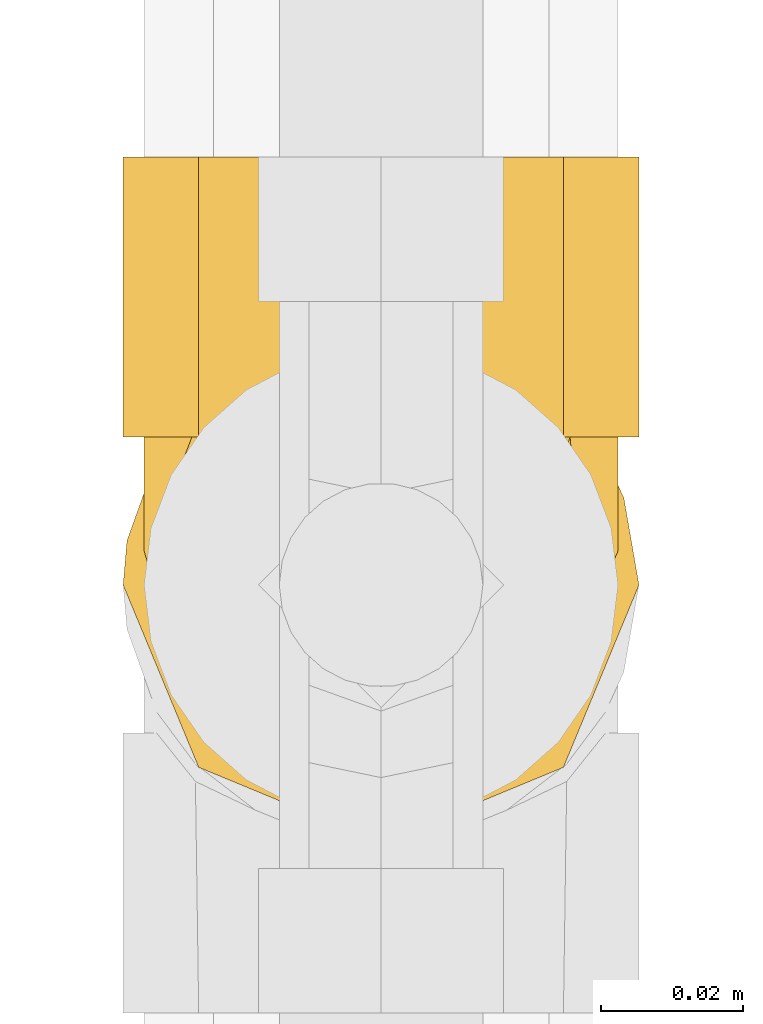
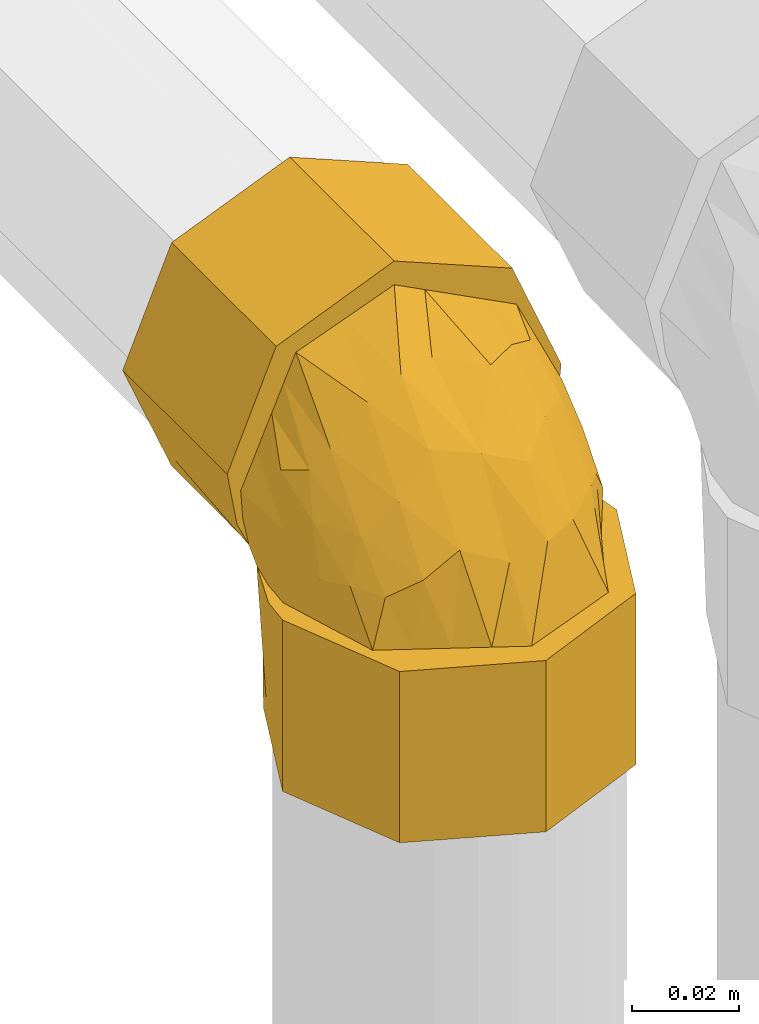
# One storey, part 242 of 652: 1 covering.
"""IFC2X3 building model written with IfcOpenShell, lengths in millimetres."""

from ifc_helpers import new_model, entity, si_unit, converted_unit, direction, frame, origin, place, context, subcontext, project, spatial, faceted_brep, material, type_object, element, save


model = new_model("IFC2X3")

# Units and contexts
model_context = context("Model", 3, precision=0.01, world=frame((0.0, 0.0, 308426.39999999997)), true_north=direction((6.123233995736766e-17, 1.0)))
plan_context = context("Plan", 3, precision=0.01, world=frame((0.0, 0.0, 308426.39999999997)), true_north=direction((6.123233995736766e-17, 1.0)))
body_context = subcontext(model_context, "Body", "Model", "MODEL_VIEW")
ifc_project = project(units=[si_unit("LENGTHUNIT", "METRE", prefix="MILLI"), si_unit("AREAUNIT", "SQUARE_METRE"), si_unit("VOLUMEUNIT", "CUBIC_METRE"), converted_unit("PLANEANGLEUNIT", "DEGREE", entity("IfcPlaneAngleMeasure", 0.017453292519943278), si_unit("PLANEANGLEUNIT", "RADIAN"), dimensions=[0, 0, 0, 0, 0, 0, 0])], contexts=[model_context, plan_context])

# Site, building, storey
site_placement = place(None, origin())
site = spatial("IfcSite", under=ifc_project, at=site_placement, Name="Default", CompositionType="ELEMENT")
building_placement = place(site_placement, origin())
building = spatial("IfcBuilding", under=site, at=building_placement, CompositionType="ELEMENT")
storey_placement = place(building_placement, frame((0.0, 0.0, 1730.6999999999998)))
storey = spatial("IfcBuildingStorey", under=building, at=storey_placement, Name="EG_Produktion_FFB", CompositionType="ELEMENT", Elevation=1730.6999999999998)

# Covering
ifc_material = material(Name="Dämmung - Armaflex-Schlauch")
covering_type = type_object("IfcCoveringType", Name="Rohrdämmung außen:Armaflex-Schlauch", PredefinedType="INSULATION")
covering_placement = place(storey_placement, frame((77542.20272776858, 51600.23108173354, 3539.9492499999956)))
element("IfcCovering", 1, at=covering_placement, inside=storey, type_object=covering_type, material=ifc_material, Name="Rohrdämmung außen:Armaflex-Schlauch", ObjectType="Rohrdämmung außen:Armaflex-Schlauch", PredefinedType="INSULATION", context=body_context, shape_type="Brep", body=[
    faceted_brep([(71.87921900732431, 50.00406166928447, 39.25925000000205), (69.29766488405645, 55.6385184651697, 39.25925000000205), (70.60633213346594, 49.190615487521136, 39.25925000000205), (71.08477223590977, 42.62645720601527, 39.25925000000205), (67.71555609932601, 34.8657782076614, 39.25925000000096), (64.34633996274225, 27.105099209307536, 39.25925000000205), (61.730299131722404, 21.079290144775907, 39.25925000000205), (59.11425830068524, 15.053481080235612, 39.25925000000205), (48.455765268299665, 11.03819792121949, 39.25925000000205), (37.79727223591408, 7.022914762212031, 39.25925000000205), (31.16766916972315, 10.459541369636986, 39.25925000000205), (24.53806610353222, 13.89616797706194, 39.25925000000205), (17.908463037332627, 17.332794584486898, 39.25925000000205), (11.278859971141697, 20.769421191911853, 39.25925000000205), (9.166908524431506, 27.588803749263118, 39.25925000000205), (7.054957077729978, 34.408186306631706, 39.25925000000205), (4.509772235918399, 42.62645720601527, 39.25925000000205), (4.988212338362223, 49.190615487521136, 39.25925000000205), (6.296879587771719, 55.6385184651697, 39.25925000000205), (2.131188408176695, 44.003339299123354, 39.25925000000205), (1.5952722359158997, 37.79727223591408, 39.25925000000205), (4.747598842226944, 30.18688258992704, 39.25925000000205), (6.896932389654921, 24.997932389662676, 39.25925000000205), (9.547762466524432, 18.598262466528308, 39.25925000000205), (12.198592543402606, 12.198592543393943, 39.25925000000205), (18.598262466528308, 9.547762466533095, 39.25925000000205), (24.997932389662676, 6.896932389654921, 39.25925000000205), (31.39760231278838, 4.246102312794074, 39.25925000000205), (37.79727223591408, 1.5952722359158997, 39.25925000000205), (45.407662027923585, 4.74759890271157, 39.25925000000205), (50.596612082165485, 6.896932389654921, 39.25925000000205), (56.996282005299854, 9.547762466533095, 39.25925000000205), (63.39595192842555, 12.198592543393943, 39.25925000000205), (66.04678200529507, 18.598262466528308, 39.25925000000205), (68.69761208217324, 24.997932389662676, 39.25925000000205), (71.34844215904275, 31.39760231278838, 39.25925000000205), (73.99927223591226, 37.79727223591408, 39.25925000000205), (12.198592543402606, 63.39595192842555, 0.0), (18.598262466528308, 66.04678200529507, 0.0), (24.997932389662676, 68.69761208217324, 0.0), (31.39760231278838, 71.34844215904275, 0.0), (37.79727223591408, 73.99927223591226, 0.0), (44.196942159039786, 71.3484421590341, 0.0), (50.596612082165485, 68.69761208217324, 0.0), (56.996282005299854, 66.04678200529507, 0.0), (63.39595192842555, 63.39595192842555, 0.0), (66.04678200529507, 56.996282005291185, 0.0), (68.69761208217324, 50.596612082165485, 0.0), (71.34844215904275, 44.196942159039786, 0.0), (73.99927223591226, 37.79727223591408, 0.0), (71.3484421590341, 31.39760231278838, 0.0), (68.69761208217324, 24.997932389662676, 0.0), (66.04678200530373, 18.598262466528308, 0.0), (63.39595192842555, 12.198592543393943, 0.0), (53.01805258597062, 7.899925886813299, 0.0), (45.40766241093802, 4.7475990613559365, 0.0), (37.79727223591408, 1.5952722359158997, 0.0), (31.39760231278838, 4.2461023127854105, 0.0), (24.99793238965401, 6.896932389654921, 0.0), (18.598262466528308, 9.547762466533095, 0.0), (12.198592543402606, 12.198592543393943, 0.0), (7.899925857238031, 22.576491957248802, 0.0), (4.747599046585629, 30.186882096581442, 0.0), (1.5952722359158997, 37.79727223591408, 0.0), (4.246102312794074, 44.196942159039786, 0.0), (6.896932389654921, 50.596612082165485, 0.0), (9.547762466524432, 56.996282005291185, 0.0), (11.740817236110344, 62.92983988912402, 32.466689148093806), (28.451279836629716, 72.7720807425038, 25.07594149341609), (20.176179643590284, 69.42134376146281, 28.42667847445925), (37.79727223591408, 73.99927223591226, 23.848750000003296), (63.85372723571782, 62.92983988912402, 32.466689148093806), (47.14326463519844, 72.7720807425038, 25.07594149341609), (55.41836482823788, 69.42134376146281, 28.42667847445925), (73.99927223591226, 58.588772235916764, 60.05075000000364), (70.84694554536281, 58.588772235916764, 67.66113984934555), (68.69761208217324, 58.588772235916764, 72.85008984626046), (66.04678200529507, 58.588772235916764, 79.24975976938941), (63.39595192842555, 58.588772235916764, 85.64942969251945), (56.996282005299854, 58.588772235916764, 88.30025976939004), (50.596612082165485, 58.588772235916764, 90.95108984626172), (44.196942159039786, 58.588772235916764, 93.6019199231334), (37.79727223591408, 58.588772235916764, 96.25275000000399), (30.1868828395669, 58.588772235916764, 93.10042349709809), (24.997932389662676, 58.588772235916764, 90.95108984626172), (18.598262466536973, 58.588772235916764, 88.30025976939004), (12.198592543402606, 58.588772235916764, 85.64942969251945), (9.547762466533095, 58.588772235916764, 79.2497597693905), (6.896932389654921, 58.588772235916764, 72.85008984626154), (4.246102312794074, 58.588772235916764, 66.4504199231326), (1.5952722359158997, 58.588772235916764, 60.05075000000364), (3.7153254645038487, 58.588772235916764, 47.84396056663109), (6.296879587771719, 58.588772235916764, 42.209503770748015), (4.988212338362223, 58.588772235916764, 48.65740674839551), (4.509772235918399, 58.588772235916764, 55.22156502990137), (7.88008535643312, 58.588772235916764, 62.98153911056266), (11.250398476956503, 58.588772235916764, 70.74151319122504), (13.869352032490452, 58.588772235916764, 76.77152019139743), (16.488305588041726, 58.588772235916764, 82.80152719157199), (27.14278891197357, 58.588772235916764, 86.813317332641), (37.79727223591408, 58.588772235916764, 90.82510747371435), (44.42865853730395, 58.588772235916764, 87.38600173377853), (51.060044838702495, 58.588772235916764, 83.94689599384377), (57.69143114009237, 58.588772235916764, 80.5077902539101), (64.32281744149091, 58.588772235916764, 77.06868451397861), (66.43186813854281, 58.588772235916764, 70.25457765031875), (68.54091883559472, 58.588772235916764, 63.440470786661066), (71.08477223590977, 58.588772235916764, 55.22156502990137), (70.60633213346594, 58.588772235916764, 48.65740674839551), (69.29766488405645, 58.588772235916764, 42.209503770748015), (73.46335606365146, 58.588772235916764, 53.8446829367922), (4.2461023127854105, 97.84802223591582, 66.4504199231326), (6.896932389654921, 97.84802223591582, 72.85008984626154), (9.547762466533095, 97.84802223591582, 79.2497597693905), (12.198592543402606, 97.84802223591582, 85.64942969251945), (22.576492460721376, 97.84802223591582, 89.94809658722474), (30.186882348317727, 97.84802223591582, 93.10042329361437), (37.79727223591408, 97.84802223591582, 96.25275000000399), (44.196942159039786, 97.84802223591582, 93.60191992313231), (50.596612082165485, 97.84802223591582, 90.95108984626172), (56.996282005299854, 97.84802223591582, 88.30025976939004), (63.39595192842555, 97.84802223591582, 85.64942969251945), (67.6946185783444, 97.84802223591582, 75.27153036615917), (70.84694540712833, 97.84802223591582, 67.66114018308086), (73.99927223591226, 97.84802223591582, 60.05075000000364), (71.34844215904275, 97.84802223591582, 53.65108007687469), (68.69761208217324, 97.84802223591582, 47.25141015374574), (66.04678200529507, 97.84802223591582, 40.85174023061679), (63.39595192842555, 97.84802223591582, 34.45207030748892), (56.996282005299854, 97.84802223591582, 31.80124023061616), (50.596612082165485, 97.84802223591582, 29.150410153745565), (44.19694215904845, 97.84802223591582, 26.49958007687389), (37.79727223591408, 97.84802223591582, 23.84875000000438), (31.39760231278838, 97.84802223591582, 26.49958007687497), (24.99793238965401, 97.84802223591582, 29.150410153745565), (18.598262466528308, 97.84802223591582, 31.801240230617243), (12.198592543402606, 97.84802223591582, 34.45207030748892), (9.547762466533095, 97.84802223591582, 40.85174023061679), (6.896932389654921, 97.84802223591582, 47.25141015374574), (4.2461023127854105, 97.84802223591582, 53.65108007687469), (1.5952722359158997, 97.84802223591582, 60.05075000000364), (11.737179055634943, 65.37871062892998, 34.92195481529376), (63.85736541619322, 65.37871062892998, 34.92195481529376), (7.177794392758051, 33.37465355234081, 49.210183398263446), (5.499599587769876, 44.30542179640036, 54.6353152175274), (4.509772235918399, 49.45193275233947, 48.39608948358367), (4.509772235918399, 46.15183622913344, 43.978455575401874), (4.509772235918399, 53.869566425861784, 51.69618583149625), (7.409565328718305, 48.580984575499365, 65.0695523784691), (20.658699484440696, 26.964693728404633, 66.14940844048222), (28.03664899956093, 17.094525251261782, 58.590346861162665), (28.624831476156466, 29.78509917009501, 73.81910229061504), (14.425393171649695, 21.419266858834, 49.86476535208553), (13.497141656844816, 28.912706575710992, 59.528532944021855), (10.228050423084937, 27.507803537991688, 50.38976739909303), (22.27387615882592, 41.80178984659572, 79.53115199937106), (14.075076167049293, 41.47102568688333, 72.05314656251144), (10.297293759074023, 42.91617535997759, 67.43644027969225), (20.69904166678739, 17.983915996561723, 53.71476365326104), (29.773051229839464, 42.15849326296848, 83.05038596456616), (37.79727223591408, 25.914115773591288, 71.93390646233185), (37.79727223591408, 15.25914769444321, 53.5048282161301), (37.79727223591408, 44.343192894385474, 82.58887389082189), (8.406242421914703, 38.212709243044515, 59.25685821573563), (71.08477223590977, 49.45193275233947, 48.39608948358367), (71.08477223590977, 46.15183622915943, 43.9784555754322), (71.08477223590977, 53.86956642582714, 51.69618583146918), (70.09487873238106, 43.20614989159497, 53.53620798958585), (62.097492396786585, 38.3156374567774, 68.93208500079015), (61.51694989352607, 25.792129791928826, 56.37753103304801), (65.2961600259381, 30.40942583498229, 54.93161321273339), (54.93562200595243, 31.709112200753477, 70.89302392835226), (53.30572110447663, 18.307811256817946, 56.04646412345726), (46.97006507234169, 24.043586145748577, 68.07919867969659), (45.80955540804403, 14.81673225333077, 55.72937335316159), (68.18492515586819, 32.77820674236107, 49.266853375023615), (47.5607401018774, 39.27595239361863, 80.76404119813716), (61.176550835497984, 47.98624501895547, 76.42208002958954), (65.36681198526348, 47.459752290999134, 70.34057123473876), (54.90236573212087, 44.141687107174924, 79.86412378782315), (68.41765540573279, 48.6361985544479, 64.46975673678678), (67.18808574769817, 38.59088627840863, 59.63561045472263)], [[[0, 1, 2, 3, 4, 5, 6, 7, 8, 9, 10, 11, 12, 13, 14, 15, 16, 17, 18, 19, 20, 21, 22, 23, 24, 25, 26, 27, 28, 29, 30, 31, 32, 33, 34, 35, 36]], [[37, 38, 39, 40, 41, 42, 43, 44, 45, 46, 47, 48, 49, 50, 51, 52, 53, 54, 55, 56, 57, 58, 59, 60, 61, 62, 63, 64, 65, 66]], [[38, 37, 67]], [[66, 67, 37]], [[67, 66, 18]], [[68, 39, 69]], [[69, 39, 38]], [[69, 38, 67]], [[65, 19, 18]], [[20, 19, 63]], [[40, 70, 41]], [[19, 65, 64, 63]], [[40, 39, 68]], [[70, 40, 68]], [[66, 65, 18]], [[63, 62, 61, 60, 24, 23, 22, 21, 20]], [[24, 60, 59, 58, 57, 56, 28, 27, 26, 25]], [[29, 28, 56, 55, 54, 53, 32, 31, 30]], [[32, 53, 52, 51, 50, 49, 36, 35, 34, 33]], [[71, 1, 46]], [[0, 47, 1]], [[1, 47, 46]], [[72, 43, 42]], [[71, 46, 45]], [[44, 71, 45]], [[36, 48, 0]], [[70, 42, 41]], [[48, 47, 0]], [[73, 43, 72]], [[71, 44, 73]], [[42, 70, 72]], [[48, 36, 49]], [[44, 43, 73]], [[74, 75, 76, 77, 78, 79, 80, 81, 82, 83, 84, 85, 86, 87, 88, 89, 90, 91, 92, 93, 94, 95, 96, 97, 98, 99, 100, 101, 102, 103, 104, 105, 106, 107, 108, 109, 110]], [[111, 112, 113, 114, 115, 116, 117, 118, 119, 120, 121, 122, 123, 124, 125, 126, 127, 128, 129, 130, 131, 132, 133, 134, 135, 136, 137, 138, 139, 140]], [[117, 116, 115, 114, 86, 85, 84, 83, 82]], [[86, 114, 113, 112, 111, 140, 90, 89, 88, 87]], [[141, 92, 137]], [[91, 138, 92]], [[68, 134, 133]], [[137, 136, 141]], [[135, 141, 136]], [[139, 138, 91]], [[90, 139, 91]], [[70, 133, 132]], [[139, 90, 140]], [[69, 134, 68]], [[141, 135, 69]], [[133, 70, 68]], [[92, 138, 137]], [[135, 134, 69]], [[129, 128, 142]], [[127, 142, 128]], [[142, 127, 109]], [[72, 130, 73]], [[73, 130, 129]], [[73, 129, 142]], [[126, 110, 109]], [[74, 110, 124]], [[131, 70, 132]], [[110, 126, 125, 124]], [[131, 130, 72]], [[70, 131, 72]], [[127, 126, 109]], [[75, 74, 124, 123, 122, 121, 78, 77, 76]], [[78, 121, 120, 119, 118, 117, 82, 81, 80, 79]], [[15, 143, 144]], [[144, 145, 146, 16]], [[144, 94, 147, 145]], [[96, 95, 148]], [[149, 150, 151]], [[152, 153, 154]], [[149, 155, 156]], [[153, 156, 157]], [[152, 158, 153]], [[16, 15, 144]], [[151, 159, 155]], [[96, 148, 157]], [[151, 155, 149]], [[153, 149, 156]], [[156, 97, 157]], [[160, 159, 151]], [[98, 156, 155]], [[99, 98, 155]], [[160, 150, 161]], [[99, 159, 100]], [[159, 160, 162, 100]], [[160, 151, 150]], [[150, 11, 10]], [[150, 149, 158]], [[10, 161, 150]], [[9, 161, 10]], [[99, 155, 159]], [[143, 15, 14]], [[152, 13, 12]], [[158, 12, 11]], [[150, 158, 11]], [[153, 158, 149]], [[158, 152, 12]], [[154, 163, 143]], [[154, 143, 14]], [[154, 13, 152]], [[143, 163, 144]], [[148, 144, 163]], [[94, 144, 95]], [[154, 14, 13]], [[163, 154, 153]], [[144, 148, 95]], [[157, 148, 163]], [[153, 157, 163]], [[156, 98, 97]], [[96, 157, 97]], [[18, 17, 145]], [[67, 141, 69]], [[141, 67, 18]], [[17, 16, 146, 145]], [[147, 94, 93, 145]], [[141, 18, 92]], [[93, 92, 145]], [[92, 18, 145]], [[164, 1, 109]], [[2, 164, 165, 3]], [[164, 2, 1]], [[1, 71, 142]], [[142, 109, 1]], [[108, 107, 166, 164]], [[108, 164, 109]], [[142, 71, 73]], [[107, 106, 167]], [[168, 169, 170]], [[171, 172, 169]], [[173, 172, 171]], [[167, 164, 166, 107]], [[173, 174, 172]], [[175, 170, 5]], [[168, 171, 169]], [[167, 3, 165, 164]], [[176, 173, 171]], [[177, 168, 178]], [[5, 4, 175]], [[177, 179, 168]], [[106, 180, 167]], [[169, 6, 170]], [[160, 174, 173]], [[7, 169, 172]], [[8, 7, 172]], [[160, 176, 162]], [[8, 174, 9]], [[174, 160, 161, 9]], [[160, 173, 176]], [[176, 102, 101]], [[176, 171, 179]], [[101, 162, 176]], [[100, 162, 101]], [[8, 172, 174]], [[180, 106, 105]], [[177, 104, 103]], [[179, 103, 102]], [[176, 179, 102]], [[168, 179, 171]], [[179, 177, 103]], [[178, 181, 180]], [[178, 180, 105]], [[178, 104, 177]], [[180, 181, 167]], [[175, 167, 181]], [[3, 167, 4]], [[178, 105, 104]], [[181, 178, 168]], [[167, 175, 4]], [[170, 175, 181]], [[168, 170, 181]], [[169, 7, 6]], [[5, 170, 6]]]),
])

save(model, "model.ifc")
